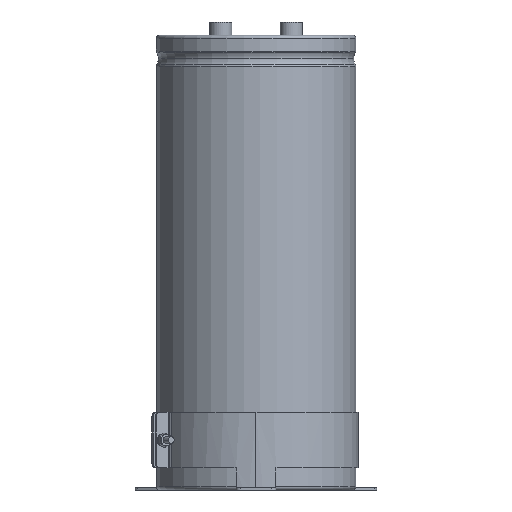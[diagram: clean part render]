
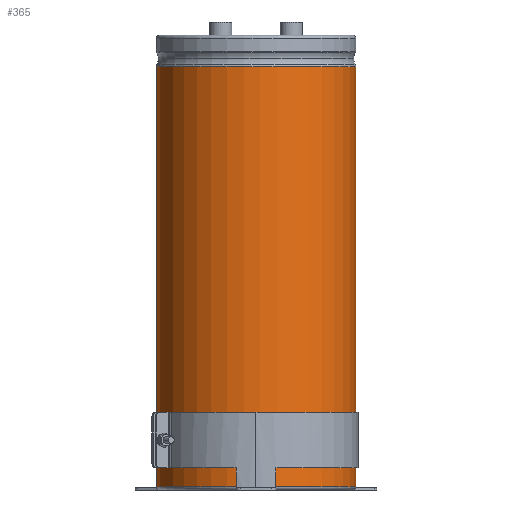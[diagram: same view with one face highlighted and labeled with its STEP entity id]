
A CAD part, left-side view. The second image highlights one B-rep face of the part: STEP entity #365.
In plain terms, the highlighted cylindrical face has radius 45 mm (diameter 90 mm), a partial arc.
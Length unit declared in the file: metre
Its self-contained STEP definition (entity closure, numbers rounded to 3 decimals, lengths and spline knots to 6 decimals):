
#365=ADVANCED_FACE('0:237',(#597),#598,.T.);
#597=FACE_OUTER_BOUND('',#1082,.T.);
#598=CYLINDRICAL_SURFACE('',#1083,0.045);
#1082=EDGE_LOOP('',(#2038,#2039,#2040,#2041));
#1083=AXIS2_PLACEMENT_3D('',#2042,#2043,#2044);
#2038=ORIENTED_EDGE('',*,*,#2995,.T.);
#2039=ORIENTED_EDGE('',*,*,#3004,.T.);
#2040=ORIENTED_EDGE('',*,*,#3006,.T.);
#2041=ORIENTED_EDGE('',*,*,#3007,.F.);
#2042=CARTESIAN_POINT('',(0.0,0.0,0.0));
#2043=DIRECTION('',(-0.0,0.0,1.0));
#2044=DIRECTION('',(0.0,1.0,0.0));
#2995=EDGE_CURVE('',#5626,#5634,#5635,.T.);
#3004=EDGE_CURVE('0:309',#5634,#5645,#5647,.T.);
#3006=EDGE_CURVE('0:312',#5645,#5649,#5650,.T.);
#3007=EDGE_CURVE('0:315',#5626,#5649,#5651,.T.);
#5626=VERTEX_POINT('',#6662);
#5634=VERTEX_POINT('',#6670);
#5635=LINE('',#6671,#6672);
#5645=VERTEX_POINT('',#6683);
#5647=CIRCLE('',#6685,0.045);
#5649=VERTEX_POINT('',#6687);
#5650=LINE('',#6688,#6689);
#5651=CIRCLE('',#6690,0.045);
#6662=CARTESIAN_POINT('',(0.,-0.045,0.0015));
#6670=CARTESIAN_POINT('',(0.,-0.045,0.1909));
#6671=CARTESIAN_POINT('',(0.,-0.045,0.0962));
#6672=VECTOR('',#8209,1.0);
#6683=CARTESIAN_POINT('',(-0.004,0.044822,0.1909));
#6685=AXIS2_PLACEMENT_3D('',#8226,#8227,#8228);
#6687=CARTESIAN_POINT('',(-0.004,0.044822,0.0015));
#6688=CARTESIAN_POINT('',(-0.004,0.044822,0.1909));
#6689=VECTOR('',#8229,0.001);
#6690=AXIS2_PLACEMENT_3D('',#8230,#8231,#8232);
#8209=DIRECTION('',(0.0,0.0,1.0));
#8226=CARTESIAN_POINT('',(0.0,0.0,0.1909));
#8227=DIRECTION('',(0.0,0.0,-1.0));
#8228=DIRECTION('',(0.0,1.0,0.0));
#8229=DIRECTION('',(0.0,0.0,-1.0));
#8230=CARTESIAN_POINT('',(0.0,0.0,0.0015));
#8231=DIRECTION('',(0.0,0.0,-1.0));
#8232=DIRECTION('',(0.0,1.0,0.0));
